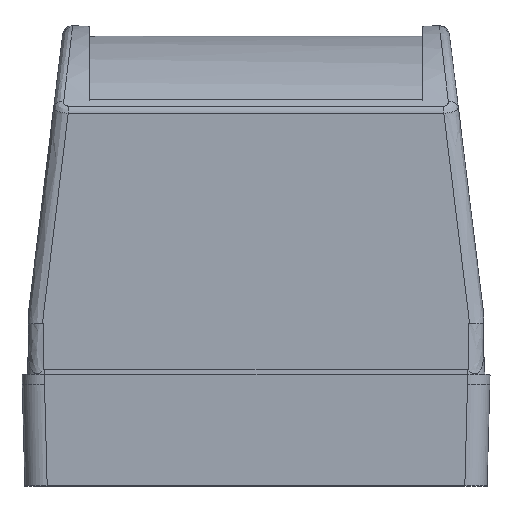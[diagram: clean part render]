
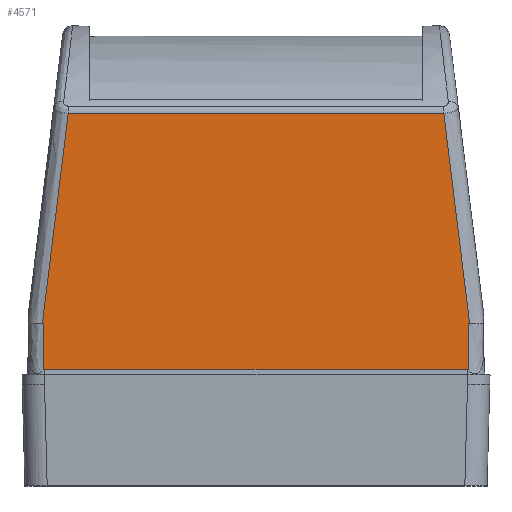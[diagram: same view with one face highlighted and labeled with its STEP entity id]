
A CAD part, top view. The second image highlights one B-rep face of the part: STEP entity #4571.
In plain terms, the highlighted planar face has unit normal (0, 0, 1).
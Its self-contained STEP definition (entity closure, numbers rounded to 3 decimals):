
#19 = CARTESIAN_POINT ( 'NONE',  ( -42.223, 12., 41. ) ) ;
#124 = DIRECTION ( 'NONE',  ( -0.707, 0.707, 0. ) ) ;
#180 = VERTEX_POINT ( 'NONE', #5774 ) ;
#183 = CARTESIAN_POINT ( 'NONE',  ( -41.802, 2.999, 41. ) ) ;
#187 = EDGE_CURVE ( 'NONE', #560, #936, #5415, .T. ) ;
#298 = VERTEX_POINT ( 'NONE', #3487 ) ;
#322 = CARTESIAN_POINT ( 'NONE',  ( -42.223, 12., 41. ) ) ;
#344 = EDGE_CURVE ( 'NONE', #560, #298, #2220, .T. ) ;
#393 = ORIENTED_EDGE ( 'NONE', *, *, #1038, .T. ) ;
#435 = CARTESIAN_POINT ( 'NONE',  ( -42., 2.889, 41. ) ) ;
#454 = ORIENTED_EDGE ( 'NONE', *, *, #5017, .T. ) ;
#481 = VERTEX_POINT ( 'NONE', #5425 ) ;
#534 = EDGE_CURVE ( 'NONE', #936, #4167, #1555, .T. ) ;
#560 = VERTEX_POINT ( 'NONE', #5615 ) ;
#684 = B_SPLINE_CURVE_WITH_KNOTS ( 'NONE', 3,
 ( #2320, #2206, #4746, #3311 ),
 .UNSPECIFIED., .F., .F.,
 ( 4, 4 ),
 ( 0., 1. ),
 .UNSPECIFIED. ) ;
#733 = EDGE_CURVE ( 'NONE', #180, #4167, #5782, .T. ) ;
#739 = CARTESIAN_POINT ( 'NONE',  ( 42.149, 12., 41. ) ) ;
#798 = CARTESIAN_POINT ( 'NONE',  ( 42., 8.963, 41. ) ) ;
#802 = CARTESIAN_POINT ( 'NONE',  ( 42.074, 12., 41. ) ) ;
#811 = CARTESIAN_POINT ( 'NONE',  ( 12.373, 53.569, 41. ) ) ;
#936 = VERTEX_POINT ( 'NONE', #4259 ) ;
#959 = ORIENTED_EDGE ( 'NONE', *, *, #2092, .F. ) ;
#1038 = EDGE_CURVE ( 'NONE', #5793, #298, #6095, .T. ) ;
#1045 = CARTESIAN_POINT ( 'NONE',  ( 42., 12., 41. ) ) ;
#1081 = CARTESIAN_POINT ( 'NONE',  ( -42., 8.963, 41. ) ) ;
#1167 = DIRECTION ( 'NONE',  ( 0., 0., -1. ) ) ;
#1293 = CARTESIAN_POINT ( 'NONE',  ( -37.119, 53.569, 41. ) ) ;
#1369 = CARTESIAN_POINT ( 'NONE',  ( -42., 12., 41. ) ) ;
#1445 = CARTESIAN_POINT ( 'NONE',  ( -38.82, 39.713, 41. ) ) ;
#1555 = B_SPLINE_CURVE_WITH_KNOTS ( 'NONE', 3,
 ( #435, #1772, #5225, #2351 ),
 .UNSPECIFIED., .F., .F.,
 ( 4, 4 ),
 ( 0., 1. ),
 .UNSPECIFIED. ) ;
#1632 = CARTESIAN_POINT ( 'NONE',  ( 42.223, 12., 41. ) ) ;
#1718 = CARTESIAN_POINT ( 'NONE',  ( 42.223, 12., 41. ) ) ;
#1746 = CARTESIAN_POINT ( 'NONE',  ( 42., 12., 41. ) ) ;
#1772 = CARTESIAN_POINT ( 'NONE',  ( -41.934, 2.962, 41. ) ) ;
#1811 = ORIENTED_EDGE ( 'NONE', *, *, #187, .T. ) ;
#1887 = CARTESIAN_POINT ( 'NONE',  ( -42.149, 12., 41. ) ) ;
#2092 = EDGE_CURVE ( 'NONE', #481, #3891, #2495, .T. ) ;
#2193 = CARTESIAN_POINT ( 'NONE',  ( -41.802, 2.999, 41. ) ) ;
#2206 = CARTESIAN_POINT ( 'NONE',  ( 41.868, 2.999, 41. ) ) ;
#2220 = B_SPLINE_CURVE_WITH_KNOTS ( 'NONE', 3,
 ( #1369, #3739, #1887, #322 ),
 .UNSPECIFIED., .F., .F.,
 ( 4, 4 ),
 ( 0., 1. ),
 .UNSPECIFIED. ) ;
#2320 = CARTESIAN_POINT ( 'NONE',  ( 41.802, 2.999, 41. ) ) ;
#2351 = CARTESIAN_POINT ( 'NONE',  ( -41.802, 2.999, 41. ) ) ;
#2387 = CARTESIAN_POINT ( 'NONE',  ( -42., 5.926, 41. ) ) ;
#2495 = B_SPLINE_CURVE_WITH_KNOTS ( 'NONE', 3,
 ( #1718, #739, #802, #4668 ),
 .UNSPECIFIED., .F., .F.,
 ( 4, 4 ),
 ( 0., 1. ),
 .UNSPECIFIED. ) ;
#2733 = ORIENTED_EDGE ( 'NONE', *, *, #344, .F. ) ;
#2735 = EDGE_CURVE ( 'NONE', #4999, #3891, #3629, .T. ) ;
#2770 = EDGE_CURVE ( 'NONE', #180, #4999, #684, .T. ) ;
#2829 = CARTESIAN_POINT ( 'NONE',  ( 42., 12., 41. ) ) ;
#2888 = AXIS2_PLACEMENT_3D ( 'NONE', #1045, #1167, #124 ) ;
#2984 = B_SPLINE_CURVE_WITH_KNOTS ( 'NONE', 3,
 ( #1632, #5012, #3140, #5467 ),
 .UNSPECIFIED., .F., .F.,
 ( 4, 4 ),
 ( 0., 1. ),
 .UNSPECIFIED. ) ;
#3003 = CARTESIAN_POINT ( 'NONE',  ( -42., 2.889, 41. ) ) ;
#3140 = CARTESIAN_POINT ( 'NONE',  ( 38.82, 39.713, 41. ) ) ;
#3311 = CARTESIAN_POINT ( 'NONE',  ( 42., 2.889, 41. ) ) ;
#3395 = CARTESIAN_POINT ( 'NONE',  ( -37.119, 53.569, 41. ) ) ;
#3468 = FACE_OUTER_BOUND ( 'NONE', #5496, .T. ) ;
#3481 = CARTESIAN_POINT ( 'NONE',  ( -37.119, 53.569, 41. ) ) ;
#3487 = CARTESIAN_POINT ( 'NONE',  ( -42.223, 12., 41. ) ) ;
#3572 = ORIENTED_EDGE ( 'NONE', *, *, #5412, .T. ) ;
#3629 = B_SPLINE_CURVE_WITH_KNOTS ( 'NONE', 3,
 ( #5648, #5140, #798, #1746 ),
 .UNSPECIFIED., .F., .F.,
 ( 4, 4 ),
 ( 0., 1. ),
 .UNSPECIFIED. ) ;
#3739 = CARTESIAN_POINT ( 'NONE',  ( -42.074, 12., 41. ) ) ;
#3891 = VERTEX_POINT ( 'NONE', #2829 ) ;
#3985 = VERTEX_POINT ( 'NONE', #5763 ) ;
#4021 = CARTESIAN_POINT ( 'NONE',  ( 13.934, 2.999, 41. ) ) ;
#4167 = VERTEX_POINT ( 'NONE', #2193 ) ;
#4202 = ORIENTED_EDGE ( 'NONE', *, *, #2770, .T. ) ;
#4259 = CARTESIAN_POINT ( 'NONE',  ( -42., 2.889, 41. ) ) ;
#4571 = ADVANCED_FACE ( 'NONE', ( #3468 ), #5514, .F. ) ;
#4668 = CARTESIAN_POINT ( 'NONE',  ( 42., 12., 41. ) ) ;
#4746 = CARTESIAN_POINT ( 'NONE',  ( 41.934, 2.962, 41. ) ) ;
#4791 = ORIENTED_EDGE ( 'NONE', *, *, #534, .T. ) ;
#4999 = VERTEX_POINT ( 'NONE', #6047 ) ;
#5012 = CARTESIAN_POINT ( 'NONE',  ( 40.522, 25.856, 41. ) ) ;
#5017 = EDGE_CURVE ( 'NONE', #3985, #5793, #5335, .T. ) ;
#5120 = CARTESIAN_POINT ( 'NONE',  ( -12.373, 53.569, 41. ) ) ;
#5140 = CARTESIAN_POINT ( 'NONE',  ( 42., 5.926, 41. ) ) ;
#5225 = CARTESIAN_POINT ( 'NONE',  ( -41.868, 2.999, 41. ) ) ;
#5260 = ORIENTED_EDGE ( 'NONE', *, *, #733, .F. ) ;
#5335 = B_SPLINE_CURVE_WITH_KNOTS ( 'NONE', 3,
 ( #5689, #811, #5120, #1293 ),
 .UNSPECIFIED., .F., .F.,
 ( 4, 4 ),
 ( 0., 1. ),
 .UNSPECIFIED. ) ;
#5374 = CARTESIAN_POINT ( 'NONE',  ( -40.522, 25.856, 41. ) ) ;
#5412 = EDGE_CURVE ( 'NONE', #481, #3985, #2984, .T. ) ;
#5415 = B_SPLINE_CURVE_WITH_KNOTS ( 'NONE', 3,
 ( #5833, #1081, #2387, #3003 ),
 .UNSPECIFIED., .F., .F.,
 ( 4, 4 ),
 ( 0., 1. ),
 .UNSPECIFIED. ) ;
#5425 = CARTESIAN_POINT ( 'NONE',  ( 42.223, 12., 41. ) ) ;
#5467 = CARTESIAN_POINT ( 'NONE',  ( 37.119, 53.569, 41. ) ) ;
#5496 = EDGE_LOOP ( 'NONE', ( #2733, #1811, #4791, #5260, #4202, #5947, #959, #3572, #454, #393 ) ) ;
#5511 = CARTESIAN_POINT ( 'NONE',  ( -13.934, 2.999, 41. ) ) ;
#5514 = PLANE ( 'NONE',  #2888 ) ;
#5615 = CARTESIAN_POINT ( 'NONE',  ( -42., 12., 41. ) ) ;
#5648 = CARTESIAN_POINT ( 'NONE',  ( 42., 2.889, 41. ) ) ;
#5689 = CARTESIAN_POINT ( 'NONE',  ( 37.119, 53.569, 41. ) ) ;
#5763 = CARTESIAN_POINT ( 'NONE',  ( 37.119, 53.569, 41. ) ) ;
#5774 = CARTESIAN_POINT ( 'NONE',  ( 41.802, 2.999, 41. ) ) ;
#5782 = B_SPLINE_CURVE_WITH_KNOTS ( 'NONE', 3,
 ( #5924, #4021, #5511, #183 ),
 .UNSPECIFIED., .F., .F.,
 ( 4, 4 ),
 ( 0., 1. ),
 .UNSPECIFIED. ) ;
#5793 = VERTEX_POINT ( 'NONE', #3481 ) ;
#5833 = CARTESIAN_POINT ( 'NONE',  ( -42., 12., 41. ) ) ;
#5924 = CARTESIAN_POINT ( 'NONE',  ( 41.802, 2.999, 41. ) ) ;
#5947 = ORIENTED_EDGE ( 'NONE', *, *, #2735, .T. ) ;
#6047 = CARTESIAN_POINT ( 'NONE',  ( 42., 2.889, 41. ) ) ;
#6095 = B_SPLINE_CURVE_WITH_KNOTS ( 'NONE', 3,
 ( #3395, #1445, #5374, #19 ),
 .UNSPECIFIED., .F., .F.,
 ( 4, 4 ),
 ( 0., 1. ),
 .UNSPECIFIED. ) ;
